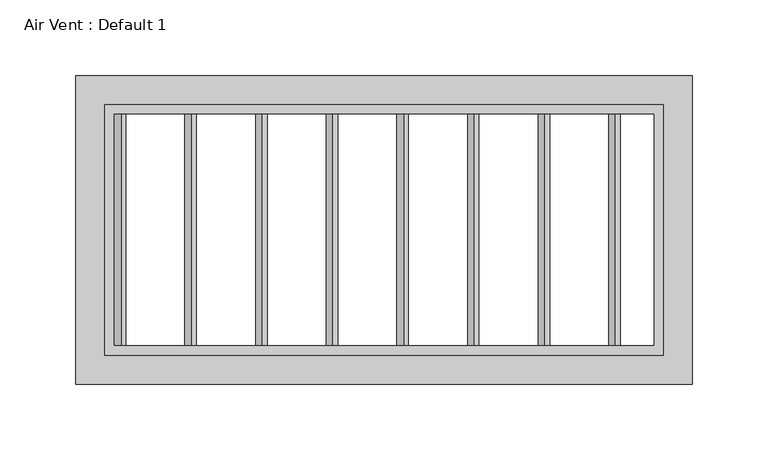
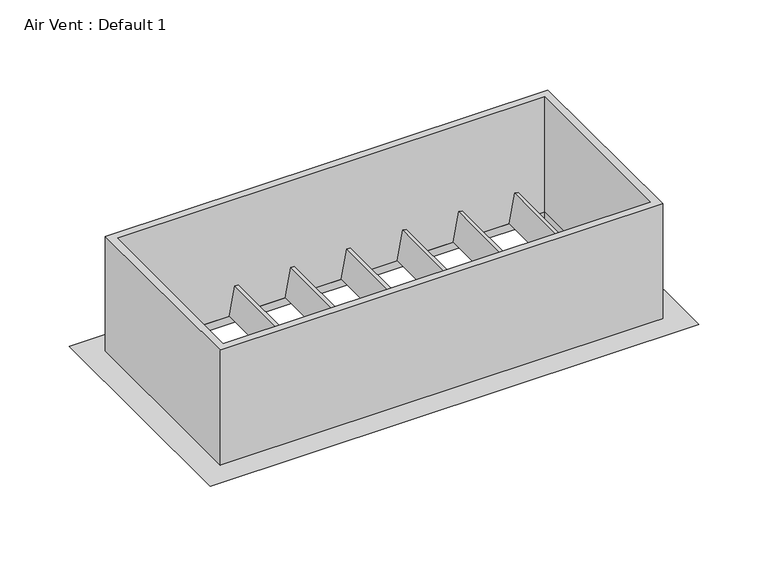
"""IFC4 building model written with IfcOpenShell, lengths in millimetres: proxy geometry, Air Vent : Default 1."""

from ifc_helpers import new_model, si_unit, frame, origin, place, context, project, spatial, polyline, outline, extrude, faceted_brep, source, transform, mapped, element, save


def air_vent_default_1_b5cdf8f8(model_context):
    return source(origin(), model_context, "Body", "SolidModel", [
        extrude(outline(polyline([(0.0, 3.175), (152.4, 3.175), (152.4, 0.0), (0.0, 0.0), (0.0, 3.175)])), frame((-131.2275149, 76.2, 2438.951333), z_axis=(0.1736481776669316, 0.0, 0.9848077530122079), x_axis=(0.0, -1.0, 0.0)), (0.0, 0.0, 1.0), 25.4),
        extrude(outline(polyline([(0.0, 3.175), (152.4, 3.175), (152.4, 0.0), (0.0, 0.0), (0.0, 3.175)])), frame((-84.6550298, 76.2, 2438.951333), z_axis=(0.1736481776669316, 0.0, 0.9848077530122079), x_axis=(0.0, -1.0, 0.0)), (0.0, 0.0, 1.0), 25.4),
        extrude(outline(polyline([(0.0, 3.175), (152.4, 3.175), (152.4, 0.0), (0.0, 0.0), (0.0, 3.175)])), frame((-38.0825447, 76.2, 2438.951333), z_axis=(0.1736481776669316, 0.0, 0.9848077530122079), x_axis=(0.0, -1.0, 0.0)), (0.0, 0.0, 1.0), 25.4),
        extrude(outline(polyline([(0.0, 3.175), (152.4, 3.175), (152.4, 0.0), (0.0, 0.0), (0.0, 3.175)])), frame((8.4899404, 76.2, 2438.951333), z_axis=(0.1736481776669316, 0.0, 0.9848077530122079), x_axis=(0.0, -1.0, 0.0)), (0.0, 0.0, 1.0), 25.4),
        extrude(outline(polyline([(0.0, 3.175), (152.4, 3.175), (152.4, 0.0), (0.0, 0.0), (0.0, 3.175)])), frame((55.0624255, 76.2, 2438.951333), z_axis=(0.1736481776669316, 0.0, 0.9848077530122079), x_axis=(0.0, -1.0, 0.0)), (0.0, 0.0, 1.0), 25.4),
        extrude(outline(polyline([(0.0, 3.175), (152.4, 3.175), (152.4, 0.0), (0.0, 0.0), (0.0, 3.175)])), frame((101.6349106, 76.2, 2438.951333), z_axis=(0.1736481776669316, 0.0, 0.9848077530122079), x_axis=(0.0, -1.0, 0.0)), (0.0, 0.0, 1.0), 25.4),
        extrude(outline(polyline([(0.0, 3.175), (152.4, 3.175), (152.4, 0.0), (0.0, 0.0), (0.0, 3.175)])), frame((148.2073957, 76.2, 2438.951333), z_axis=(0.1736481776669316, 0.0, 0.9848077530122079), x_axis=(0.0, -1.0, 0.0)), (0.0, 0.0, 1.0), 25.4),
        extrude(outline(polyline([(0.0, 3.175), (152.4, 3.175), (152.4, 0.0), (0.0, 0.0), (0.0, 3.175)])), frame((-177.8, 76.2, 2438.951333), z_axis=(0.1736481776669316, 0.0, 0.9848077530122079), x_axis=(0.0, -1.0, 0.0)), (0.0, 0.0, 1.0), 25.4),
        faceted_brep([(177.8, -76.2, 2438.4), (177.8, 76.2, 2438.4), (177.8, 76.2, 2432.05), (177.8, -76.2, 2432.05), (-177.8, 76.2, 2438.4), (-177.8, 76.2, 2432.05), (-177.8, -76.2, 2438.4), (-177.8, -76.2, 2432.05), (190.5, 88.9, 2432.05), (190.5, -88.9, 2432.05), (-190.5, -88.9, 2432.05), (-190.5, 88.9, 2432.05), (203.2, -101.6, 2438.4), (203.2, 101.6, 2438.4), (-203.2, 101.6, 2438.4), (-203.2, -101.6, 2438.4)], [[[0, 1, 2, 3]], [[1, 4, 5, 2]], [[4, 6, 7, 5]], [[8, 9, 10, 11], [3, 2, 5, 7]], [[12, 13, 14, 15], [1, 0, 6, 4]], [[6, 0, 3, 7]], [[9, 8, 13, 12]], [[8, 11, 14, 13]], [[11, 10, 15, 14]], [[10, 9, 12, 15]]]),
        extrude(outline(polyline([(184.15, -82.55), (-184.15, -82.55), (-184.15, 82.55), (184.15, 82.55), (184.15, -82.55)]), holes=[polyline([(177.8, -76.2), (177.8, 76.2), (-177.8, 76.2), (-177.8, -76.2), (177.8, -76.2)])]), frame((0.0, 0.0, 2438.4), z_axis=(0.0, 0.0, 1.0), x_axis=(1.0, 0.0, 0.0)), (0.0, 0.0, 1.0), 101.6),
    ])


if __name__ == "__main__":
    model = new_model("IFC4")
    model_context = context("Model", 3, world=origin())
    ifc_project = project(units=[si_unit("LENGTHUNIT", "METRE", prefix="MILLI")], contexts=[model_context])
    site = spatial("IfcSite", under=ifc_project)
    building = spatial("IfcBuilding", under=site)
    placement = place(None, origin())
    air_vent_default_1_shape = air_vent_default_1_b5cdf8f8(model_context)
    element("IfcBuildingElementProxy", 1, Name="Air Vent : Default 1", ObjectType="Air Vent : Default 1", at=placement, inside=building, context=model_context, shape_type="MappedRepresentation", body=[
        mapped(air_vent_default_1_shape, transform((0.0, 0.0, 0.0), x_axis=(1.0, 0.0, 0.0), y_axis=(0.0, 1.0, 0.0), z_axis=(0.0, 0.0, 1.0))),
    ])
    save(model, "model.ifc")
